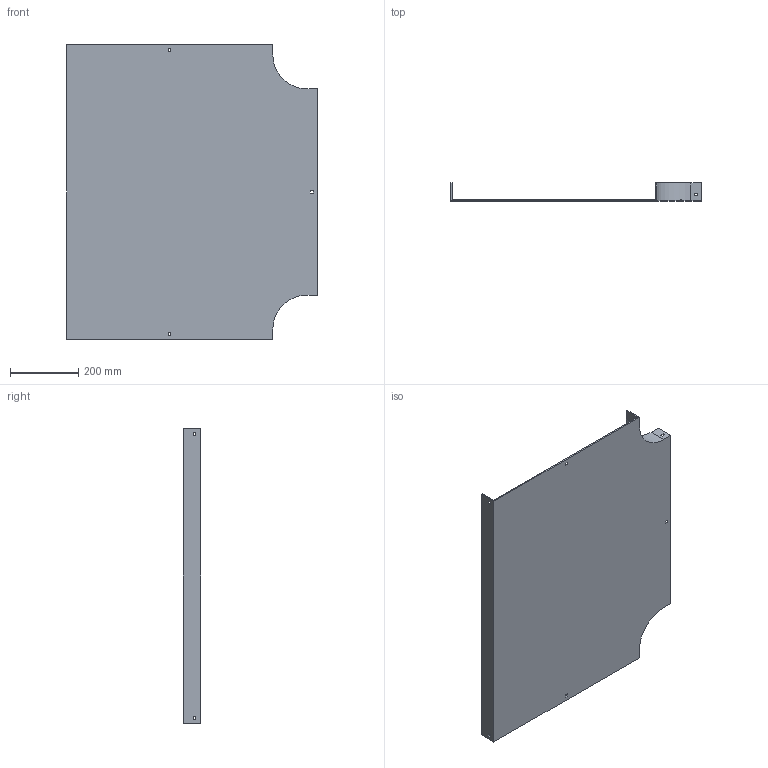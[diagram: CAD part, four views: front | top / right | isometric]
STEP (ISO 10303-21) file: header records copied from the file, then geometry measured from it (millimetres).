
FILE_DESCRIPTION (( 'STEP AP214' ), '1' );
FILE_NAME ('15F1B600.step', '2025-02-21T13:04:29', ( '' ), ( '' ), 'SwSTEP 2.0', 'SolidWorks 2023', '' );
FILE_SCHEMA (( 'AUTOMOTIVE_DESIGN' ));
Length unit declared in the file: millimetre
Products named in the file (1): 15F1B600
Bounding box: 734 x 52 x 864 mm (x, y, z)
Volume: 2335549.7 mm3; surface area: 1347543.4 mm2
Topology: 1 solids, 1 shells, 58 faces, 168 edges, 112 vertices
Faces by surface type: plane 54, cylinder 4
Entity records: 1939 total; most frequent: CARTESIAN_POINT 339, ORIENTED_EDGE 336, DIRECTION 294, EDGE_CURVE 168, LINE 160, VECTOR 160, VERTEX_POINT 112, EDGE_LOOP 76
